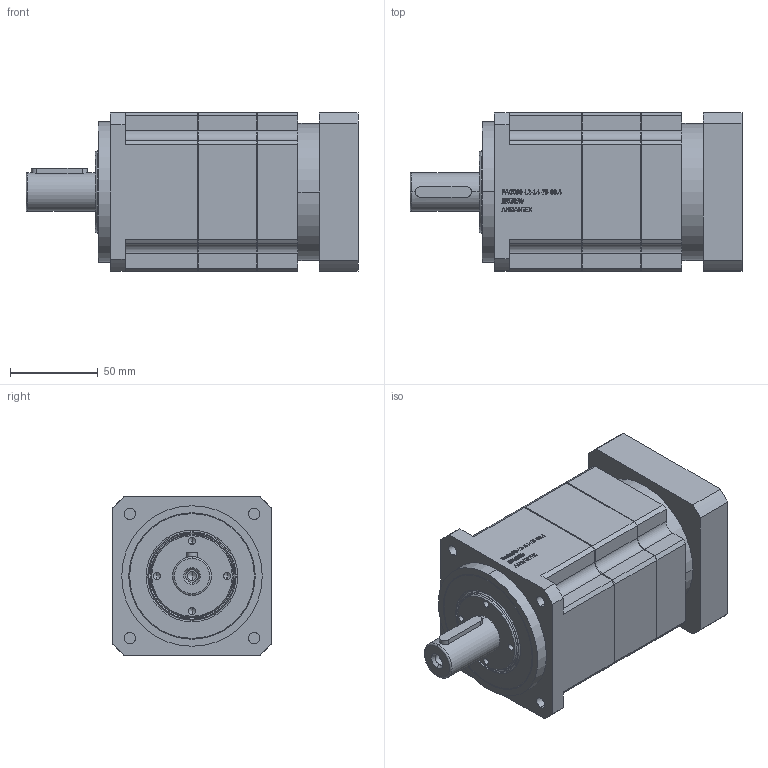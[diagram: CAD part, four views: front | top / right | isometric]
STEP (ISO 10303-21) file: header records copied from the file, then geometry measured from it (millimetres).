
FILE_DESCRIPTION (( 'STEP AP203' ), '1' );
FILE_NAME ('PAG090-L2-14-73-98.4.STEP', '2022-07-18T07:55:25', ( 'Windows User' ), ( 'P R C' ), 'SwSTEP 2.0', 'SolidWorks 2016', '' );
FILE_SCHEMA (( 'CONFIG_CONTROL_DESIGN' ));
Length unit declared in the file: millimetre
Products named in the file (8): PAG90奻裔啣; PAG90二级齿圈; PAG90-狟裔-14; 油封範本 TC 72x50x8_TC-34.9-55-7; 内六角圆柱头螺钉M6×16; A倰す瑩 6x6x32; PLG90 珨撰蟀諉啣 90選 073x5 98.4xM5 25L; PAG090-L2-14-73-98.4
Assembly tree (7 placements, depth 2):
  PAG090-L2-14-73-98.4
    PAG90奻裔啣
    PAG90二级齿圈
    PAG90-狟裔-14
    油封範本 TC 72x50x8_TC-34.9-55-7
    内六角圆柱头螺钉M6×16
    A倰す瑩 6x6x32
    PLG90 珨撰蟀諉啣 90選 073x5 98.4xM5 25L
Bounding box: 189 x 90 x 90 mm (x, y, z)
Volume: 969498.5 mm3; surface area: 149722 mm2
Topology: 7 solids, 7 shells, 990 faces, 2563 edges, 1666 vertices
Faces by surface type: plane 551, cylinder 179, bspline 170, cone 70, torus 20
Entity records: 38837 total; most frequent: CARTESIAN_POINT 14623, ORIENTED_EDGE 5090, DIRECTION 4296, EDGE_CURVE 2545, VECTOR 1688, LINE 1688, VERTEX_POINT 1666, AXIS2_PLACEMENT_3D 1304
